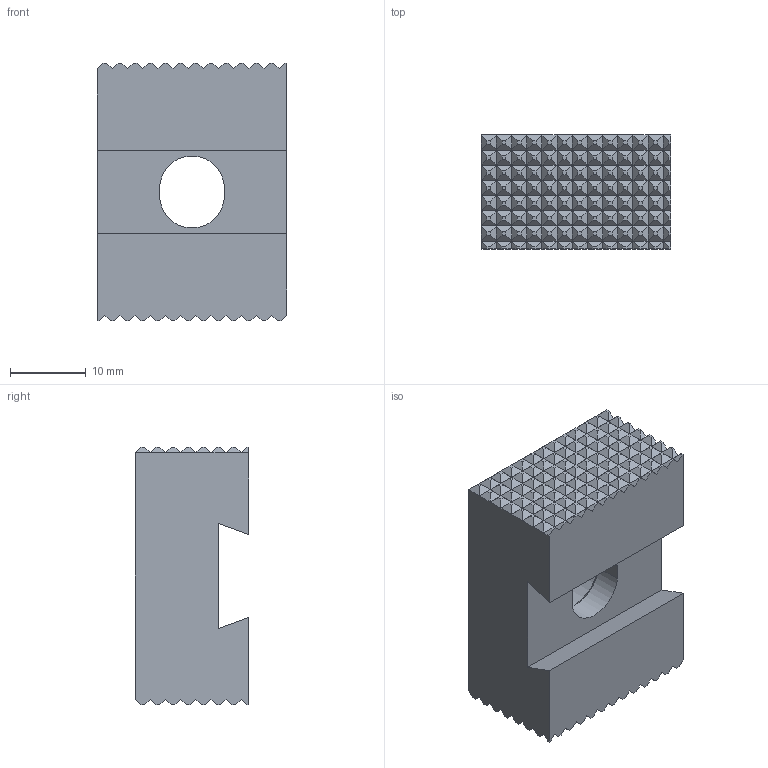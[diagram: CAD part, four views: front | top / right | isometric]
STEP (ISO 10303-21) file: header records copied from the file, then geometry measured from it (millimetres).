
FILE_DESCRIPTION((''),'2;1');
FILE_NAME('FG_WH_WEDCL_0SSJ1NP001','2026-06-05T10:27:25',('Admin'),(''),'CREO PARAMETRIC BY PTC INC, 2025010','CREO PARAMETRIC BY PTC INC, 2025010','');
FILE_SCHEMA(('CONFIG_CONTROL_DESIGN'));
Length unit declared in the file: metre
Products named in the file (1): FG_WH_WEDCL_0SSJ1NP001
Bounding box: 25 x 15 x 34 mm (x, y, z)
Volume: 9831.7 mm3; surface area: 4126.4 mm2
Topology: 1 solids, 1 shells, 1027 faces, 2142 edges, 1118 vertices
Faces by surface type: plane 1017, cone 6, cylinder 4
Entity records: 25524 total; most frequent: CARTESIAN_POINT 4307, ORIENTED_EDGE 4284, DIRECTION 4206, EDGE_CURVE 2142, VECTOR 2124, LINE 2124, VERTEX_POINT 1118, AXIS2_PLACEMENT_3D 1041
